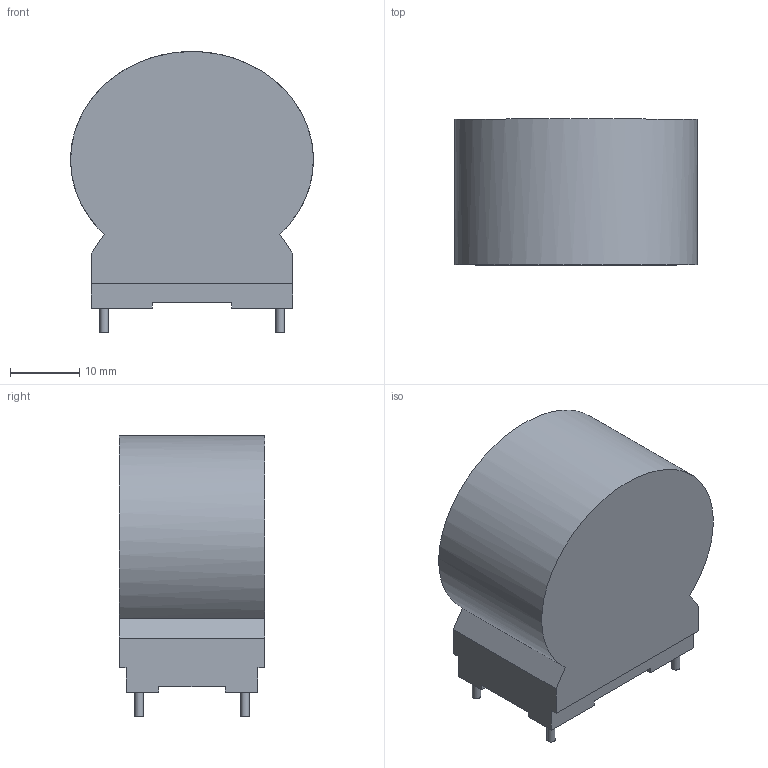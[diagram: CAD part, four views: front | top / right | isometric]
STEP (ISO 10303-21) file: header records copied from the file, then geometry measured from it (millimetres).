
FILE_DESCRIPTION(/* description */ (''),/* implementation_level */ '2;1');
FILE_NAME(/* name */ 'F:\Done\2016\产品3D模拟 新型号\修改针径\新建文件夹\6166-X210\6166-X210 3D Model.stp',/* time_stamp */ '2016-07-12T13:37:40+08:00',/* author */ ('CN000562'),/* organization */ (''),/* preprocessor_version */ 'ST-DEVELOPER v16.5',/* originating_system */ 'Autodesk Inventor 2017',/* authorisation */ '');
FILE_SCHEMA (('AUTOMOTIVE_DESIGN { 1 0 10303 214 3 1 1 }'));
Length unit declared in the file: millimetre
Products named in the file (1): 零件1
Bounding box: 34.99 x 21 x 40.49 mm (x, y, z)
Volume: 22128.7 mm3; surface area: 4888.9 mm2
Topology: 1 solids, 1 shells, 32 faces, 78 edges, 52 vertices
Faces by surface type: plane 27, cylinder 4, bspline 1
Full cylindrical faces by diameter (mm): 1.25 x4
Entity records: 951 total; most frequent: CARTESIAN_POINT 172, ORIENTED_EDGE 148, DIRECTION 148, EDGE_CURVE 74, LINE 64, VECTOR 64, VERTEX_POINT 52, AXIS2_PLACEMENT_3D 42
